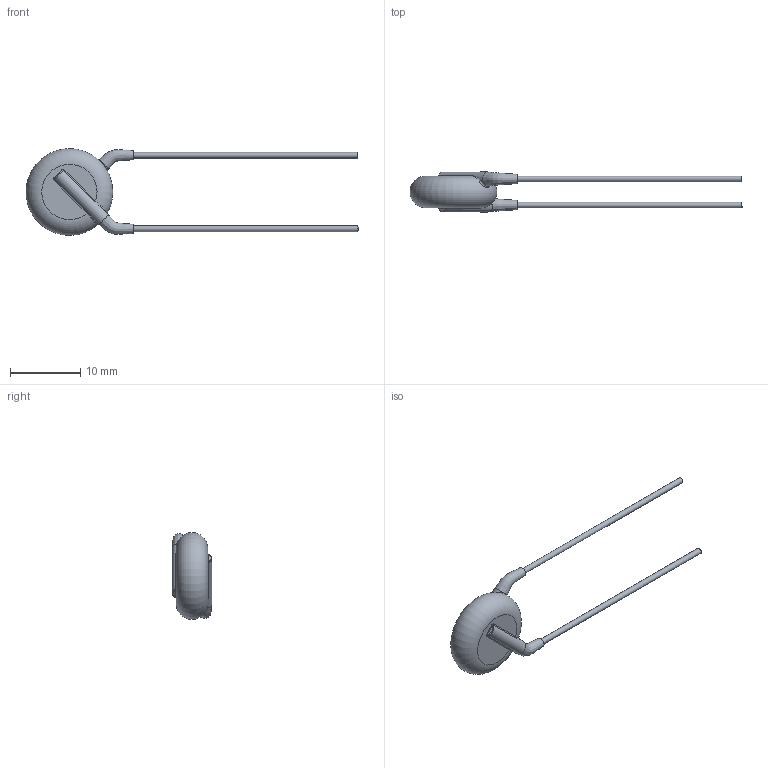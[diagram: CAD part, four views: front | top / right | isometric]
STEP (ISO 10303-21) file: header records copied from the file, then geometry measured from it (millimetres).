
FILE_DESCRIPTION(/* description */ (''),/* implementation_level */ '2;1');
FILE_NAME(/* name */ 'I:\Marketing\M6t1\3D-Models\Zchng-Werk-3\Upload for homepage\Ceramite\Y5U\440LD30-R\440LD30-R.stp',/* time_stamp */ '2016-11-10T14:23:52+01:00',/* author */ ('sheinrich'),/* organization */ (''),/* preprocessor_version */ 'ST-DEVELOPER v16.1',/* originating_system */ 'Autodesk Inventor 2016',/* authorisation */ '');
FILE_SCHEMA (('AUTOMOTIVE_DESIGN { 1 0 10303 214 3 1 1 }'));
Length unit declared in the file: millimetre
Products named in the file (1): 440LD30-R
Bounding box: 47.39 x 5.7 x 12.39 mm (x, y, z)
Volume: 539.3 mm3; surface area: 565.9 mm2
Topology: 1 solids, 1 shells, 39 faces, 84 edges, 45 vertices
Faces by surface type: bspline 12, cylinder 12, plane 8, torus 7
Full cylindrical faces by diameter (mm): 0.81 x2
Entity records: 1806 total; most frequent: CARTESIAN_POINT 989, ORIENTED_EDGE 152, DIRECTION 144, EDGE_CURVE 76, AXIS2_PLACEMENT_3D 66, EDGE_LOOP 44, VERTEX_POINT 44, STYLED_ITEM 40
